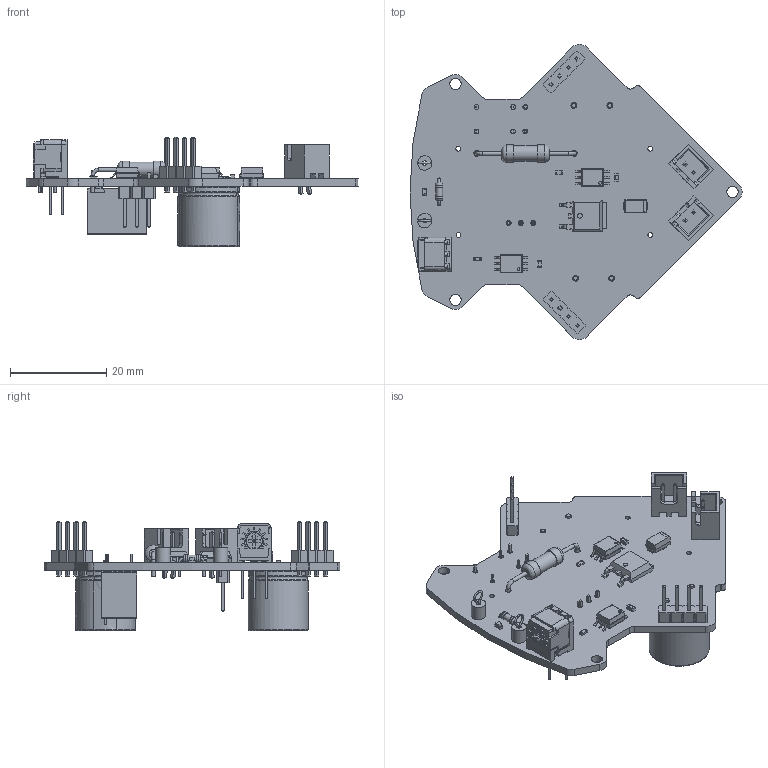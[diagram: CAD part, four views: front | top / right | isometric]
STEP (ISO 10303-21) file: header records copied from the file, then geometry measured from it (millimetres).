
FILE_DESCRIPTION(('KiCad electronic assembly'),'2;1');
FILE_NAME('kick-drib-2.step','2022-02-23T15:24:31',('Pcbnew'),('Kicad'), 'Open CASCADE STEP processor 7.5','KiCad to STEP converter','Unknown' );
FILE_SCHEMA(('AUTOMOTIVE_DESIGN { 1 0 10303 214 1 1 1 1 }'));
Length unit declared in the file: millimetre
Products named in the file (32): kick-drib-2 1; TLP2361_E; COMPOUND; C_0603_1608Metric; SOLID; JST_XH_B2B-XH-A_1x02_P2.50mm_Vertical; PinHeader_1x04_P2.54mm_Vertical; TestPoint_Loop_D2.60mm_Drill0.9mm_Beaded; CT-6EN10; R_0603_1608Metric; R_Axial_DIN0411_L9.9mm_D3.6mm_P20.32mm_Horizontal; R_Axial_DIN0204_L3.6mm_D1.6mm_P5.08mm_Horizontal; D_SMA; TO-252-2; LED_0603_1608Metric; CP_Radial_D12.5mm_P7.50mm; Relay_SPDT_Omron_G5V-1; PinHeader_1x03_P2.54mm_Vertical; kick-drib-2 PCB
Assembly tree (38 placements, depth 3):
  kick-drib-2 1
    TLP2361_E  x2
      COMPOUND
    C_0603_1608Metric  x2
      SOLID
    JST_XH_B2B-XH-A_1x02_P2.50mm_Vertical  x2
      SOLID
    PinHeader_1x04_P2.54mm_Vertical  x2
      SOLID
    TestPoint_Loop_D2.60mm_Drill0.9mm_Beaded  x2
      COMPOUND
    CT-6EN10
      COMPOUND
    R_0603_1608Metric  x2
      SOLID
    R_Axial_DIN0411_L9.9mm_D3.6mm_P20.32mm_Horizontal
      SOLID
    R_Axial_DIN0204_L3.6mm_D1.6mm_P5.08mm_Horizontal
      SOLID
    D_SMA
      SOLID
    TO-252-2
      SOLID
    LED_0603_1608Metric
      SOLID
    CP_Radial_D12.5mm_P7.50mm  x2
      SOLID
    Relay_SPDT_Omron_G5V-1
      SOLID
    PinHeader_1x03_P2.54mm_Vertical
      SOLID
    kick-drib-2 PCB
Bounding box: 69.16 x 61.59 x 22.74 mm (x, y, z)
Volume: 9338.4 mm3; surface area: 10995.6 mm2
Topology: 38 solids, 40 shells, 1501 faces, 3836 edges, 2478 vertices
Faces by surface type: bspline 1428, cylinder 57, plane 16
Full cylindrical faces by diameter (mm): 0.7 x2, 0.9 x2, 0.92 x3, 1 x21, 1.016 x4, 1.2 x6, 2.4 x3
Entity records: 71926 total; most frequent: CARTESIAN_POINT 28809, B_SPLINE_CURVE_WITH_KNOTS 7100, ORIENTED_EDGE 5644, PCURVE 5644, DEFINITIONAL_REPRESENTATION 5644, EDGE_CURVE 2822, SURFACE_CURVE 2731, VERTEX_POINT 1824
